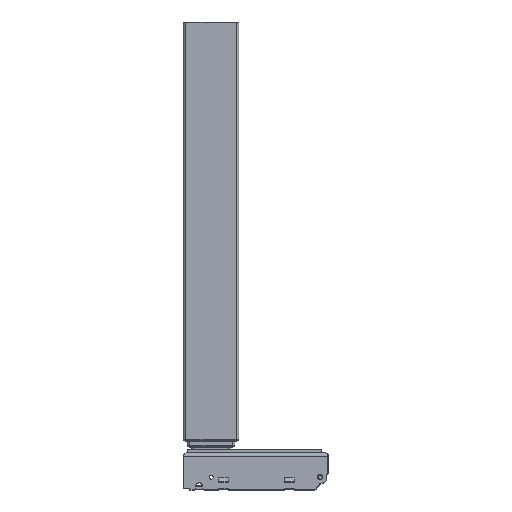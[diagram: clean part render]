
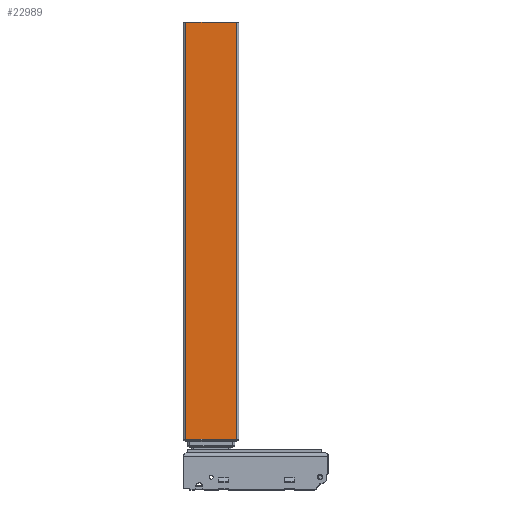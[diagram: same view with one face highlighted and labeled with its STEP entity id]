
A CAD part, top view. The second image highlights one B-rep face of the part: STEP entity #22989.
In plain terms, the highlighted planar face has unit normal (0, 0, 1).
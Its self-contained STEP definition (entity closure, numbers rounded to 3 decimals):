
#689 = CARTESIAN_POINT ( 'NONE',  ( 6.176, -214.603, 595. ) ) ;
#821 = CARTESIAN_POINT ( 'NONE',  ( -60.824, -214.603, 595. ) ) ;
#2598 = VECTOR ( 'NONE', #48325, 1000. ) ;
#2892 = DIRECTION ( 'NONE',  ( 0., 0., -1. ) ) ;
#3052 = EDGE_CURVE ( 'NONE', #10409, #30659, #9791, .T. ) ;
#4824 = DIRECTION ( 'NONE',  ( -1., 0., 0. ) ) ;
#5534 = CARTESIAN_POINT ( 'NONE',  ( -57.824, -214.603, 595. ) ) ;
#5806 = CARTESIAN_POINT ( 'NONE',  ( -57.824, 311.397, 595. ) ) ;
#9469 = CARTESIAN_POINT ( 'NONE',  ( -57.824, -214.603, 595. ) ) ;
#9791 = LINE ( 'NONE', #10087, #17231 ) ;
#10087 = CARTESIAN_POINT ( 'NONE',  ( -60.824, 311.397, 595. ) ) ;
#10369 = VECTOR ( 'NONE', #42763, 1000. ) ;
#10409 = VERTEX_POINT ( 'NONE', #55667 ) ;
#13597 = EDGE_CURVE ( 'NONE', #30659, #42545, #34902, .T. ) ;
#17231 = VECTOR ( 'NONE', #4824, 1000. ) ;
#21270 = CARTESIAN_POINT ( 'NONE',  ( 6.176, -214.603, 595. ) ) ;
#22469 = VERTEX_POINT ( 'NONE', #689 ) ;
#22989 = ADVANCED_FACE ( 'NONE', ( #47153 ), #50594, .F. ) ;
#23032 = ORIENTED_EDGE ( 'NONE', *, *, #50569, .F. ) ;
#26014 = ORIENTED_EDGE ( 'NONE', *, *, #3052, .T. ) ;
#28954 = ORIENTED_EDGE ( 'NONE', *, *, #59347, .T. ) ;
#30659 = VERTEX_POINT ( 'NONE', #5806 ) ;
#32086 = VECTOR ( 'NONE', #49565, 1000. ) ;
#34019 = LINE ( 'NONE', #821, #2598 ) ;
#34902 = LINE ( 'NONE', #9469, #10369 ) ;
#38446 = EDGE_LOOP ( 'NONE', ( #23032, #28954, #26014, #42738 ) ) ;
#42545 = VERTEX_POINT ( 'NONE', #5534 ) ;
#42738 = ORIENTED_EDGE ( 'NONE', *, *, #13597, .T. ) ;
#42763 = DIRECTION ( 'NONE',  ( 0., -1., 0. ) ) ;
#45601 = AXIS2_PLACEMENT_3D ( 'NONE', #46028, #2892, #60207 ) ;
#46028 = CARTESIAN_POINT ( 'NONE',  ( -60.824, -214.603, 595. ) ) ;
#46970 = LINE ( 'NONE', #21270, #32086 ) ;
#47153 = FACE_OUTER_BOUND ( 'NONE', #38446, .T. ) ;
#48325 = DIRECTION ( 'NONE',  ( -1., 0., 0. ) ) ;
#49565 = DIRECTION ( 'NONE',  ( 0., 1., 0. ) ) ;
#50569 = EDGE_CURVE ( 'NONE', #22469, #42545, #34019, .T. ) ;
#50594 = PLANE ( 'NONE',  #45601 ) ;
#55667 = CARTESIAN_POINT ( 'NONE',  ( 6.176, 311.397, 595. ) ) ;
#59347 = EDGE_CURVE ( 'NONE', #22469, #10409, #46970, .T. ) ;
#60207 = DIRECTION ( 'NONE',  ( 1., 0., 0. ) ) ;
